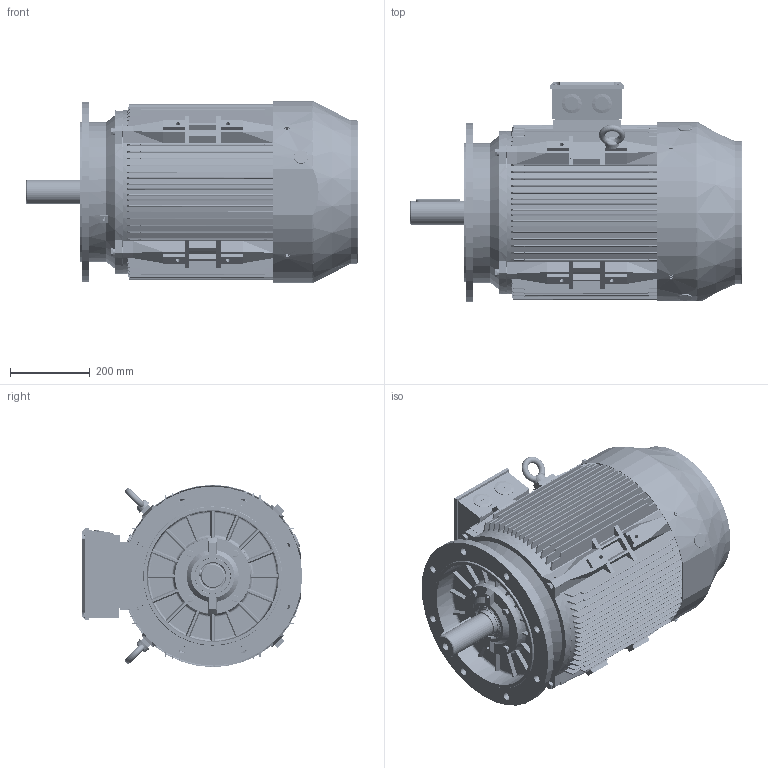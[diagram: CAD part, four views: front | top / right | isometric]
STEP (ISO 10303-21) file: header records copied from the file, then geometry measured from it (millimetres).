
FILE_DESCRIPTION (( 'STEP AP214' ), '1' );
FILE_NAME ('BCT3450.22D405.11.STEP', '2020-04-23T12:55:25', ( '' ), ( '' ), 'SwSTEP 2.0', 'SolidWorks 2019', '' );
FILE_SCHEMA (( 'AUTOMOTIVE_DESIGN' ));
Length unit declared in the file: millimetre
Products named in the file (1): BCT3450.22D405.11
Bounding box: 834.52 x 554 x 458.4 mm (x, y, z)
Volume: 21393943.9 mm3; surface area: 5154641.9 mm2
Topology: 51 solids, 52 shells, 7990 faces, 23100 edges, 15154 vertices
Faces by surface type: plane 3886, cylinder 3067, cone 425, torus 362, sphere 128, bspline 122
Entity records: 296797 total; most frequent: CARTESIAN_POINT 82638, ORIENTED_EDGE 45780, DIRECTION 43719, EDGE_CURVE 22890, AXIS2_PLACEMENT_3D 15314, VERTEX_POINT 15090, LINE 13091, VECTOR 13091
